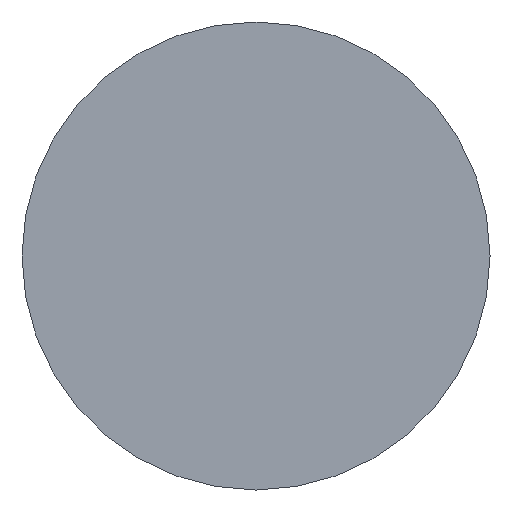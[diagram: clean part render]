
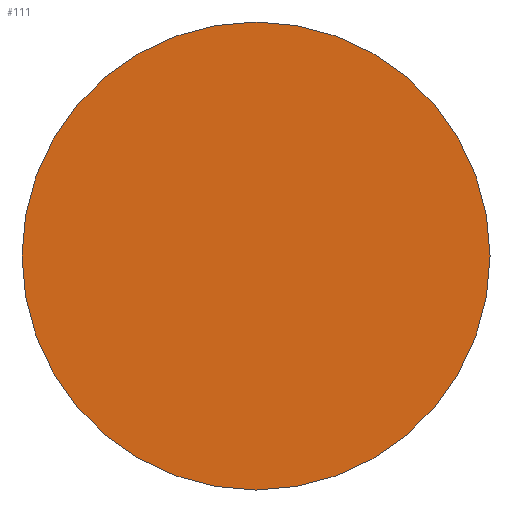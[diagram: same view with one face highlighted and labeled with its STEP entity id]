
A CAD part, front view. The second image highlights one B-rep face of the part: STEP entity #111.
In plain terms, the highlighted planar face has unit normal (0, -1, 0).
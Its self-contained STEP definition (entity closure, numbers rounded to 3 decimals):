
#17 = DIRECTION ( 'NONE',  ( -1., 0., 0. ) ) ;
#19 = CIRCLE ( 'NONE', #152, 30. ) ;
#29 = ORIENTED_EDGE ( 'NONE', *, *, #200, .F. ) ;
#37 = PLANE ( 'NONE',  #188 ) ;
#50 = CARTESIAN_POINT ( 'NONE',  ( -30., 0., 0. ) ) ;
#82 = FACE_OUTER_BOUND ( 'NONE', #119, .T. ) ;
#111 = ADVANCED_FACE ( 'NONE', ( #82 ), #37, .F. ) ;
#112 = DIRECTION ( 'NONE',  ( -1., 0., 0. ) ) ;
#119 = EDGE_LOOP ( 'NONE', ( #29 ) ) ;
#125 = VERTEX_POINT ( 'NONE', #50 ) ;
#131 = DIRECTION ( 'NONE',  ( 0., 1., 0. ) ) ;
#149 = CARTESIAN_POINT ( 'NONE',  ( 0., 0., 0. ) ) ;
#152 = AXIS2_PLACEMENT_3D ( 'NONE', #159, #164, #17 ) ;
#159 = CARTESIAN_POINT ( 'NONE',  ( 0., 0., 0. ) ) ;
#164 = DIRECTION ( 'NONE',  ( 0., 1., 0. ) ) ;
#188 = AXIS2_PLACEMENT_3D ( 'NONE', #149, #131, #112 ) ;
#200 = EDGE_CURVE ( 'NONE', #125, #125, #19, .T. ) ;
